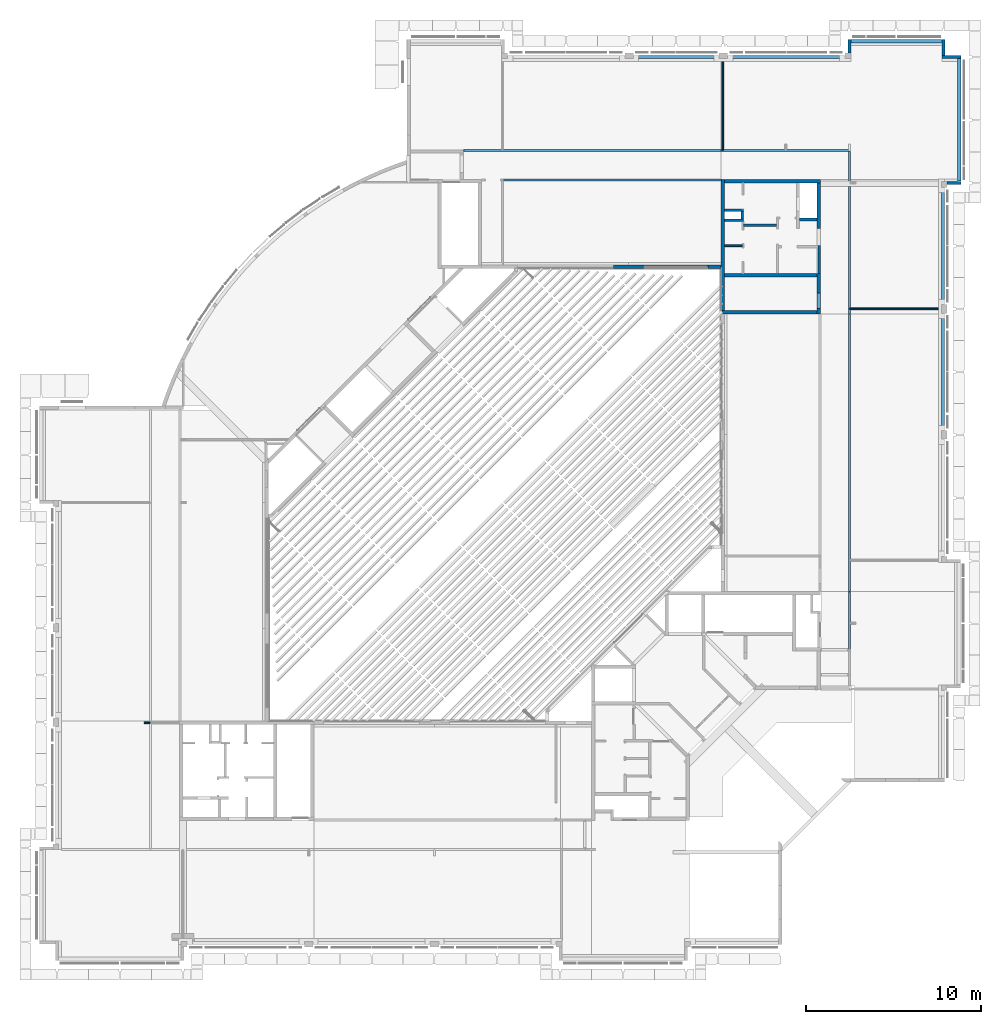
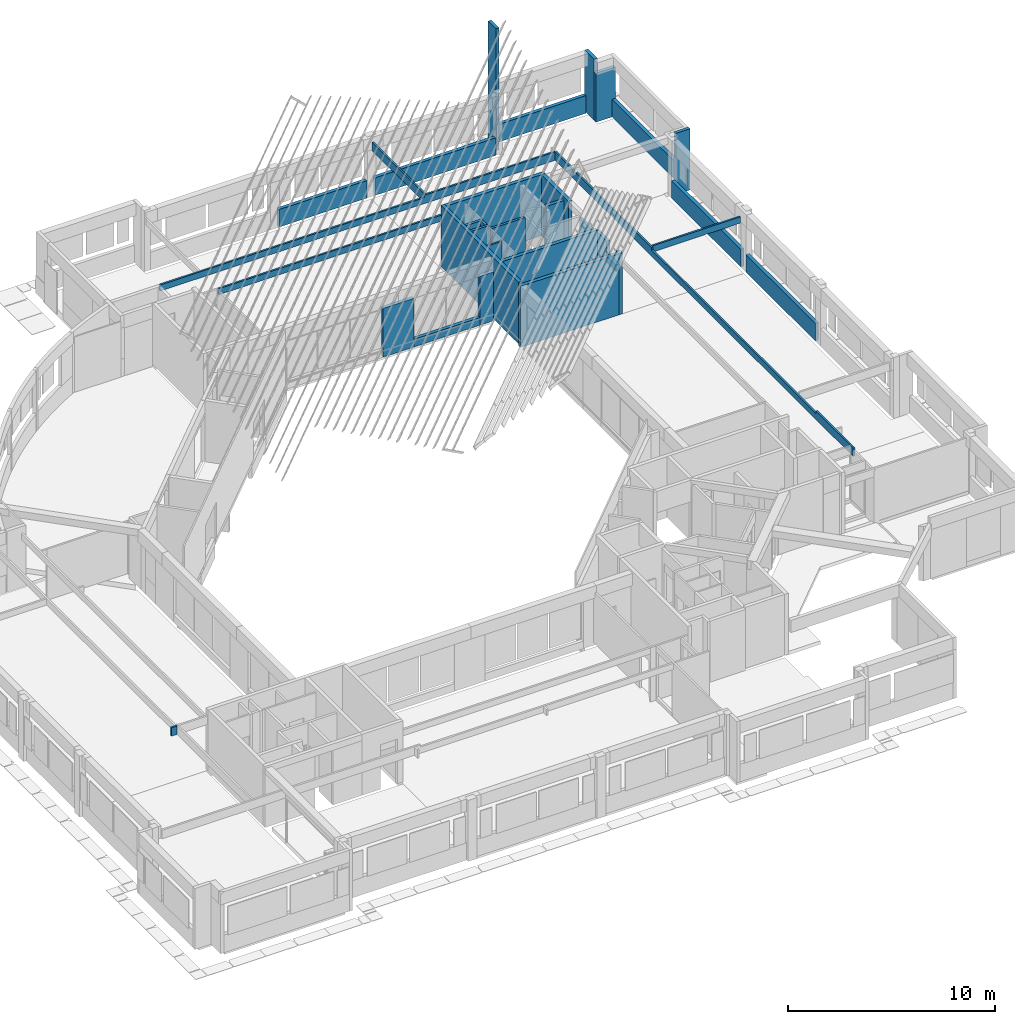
# One storey, part 30 of 37: 34 walls.
"""IFC4X3_ADD2 building model written with IfcOpenShell, lengths in millimetres."""

from ifc_helpers import new_model, si_unit, direction, frame, frame_2d, origin_with_axes, origin_2d_with_axis, place, context, subcontext, project, spatial, polyline, rectangle, outline, extrude, source, transform, mapped, material, type_object, type_shapes, element, save


model = new_model("IFC4X3_ADD2")

# Units and contexts
model_context = context("Model", 3, precision=1e-05, world=origin_with_axes(), true_north=direction((0.0, 1.0)))
body_context = subcontext(model_context, "Body", "Model", "MODEL_VIEW")
ifc_project = project(units=[si_unit("LENGTHUNIT", "METRE", prefix="MILLI"), si_unit("AREAUNIT", "SQUARE_METRE"), si_unit("VOLUMEUNIT", "CUBIC_METRE"), si_unit("PLANEANGLEUNIT", "RADIAN"), si_unit("TIMEUNIT", "SECOND"), si_unit("MASSUNIT", "GRAM")], contexts=[model_context])

# Site, building, storey
site_placement = place(None, origin_with_axes())
site = spatial("IfcSite", under=ifc_project, at=site_placement, Name="Site", CompositionType="ELEMENT")
building_placement = place(site_placement, origin_with_axes())
building = spatial("IfcBuilding", under=site, at=building_placement, Name="IFC Building Story")
storey_placement = place(building_placement, frame((0.0, 0.0, 3600.0), z_axis=(0.0, 0.0, 1.0), x_axis=(1.0, 0.0, 0.0)))
storey = spatial("IfcBuildingStorey", under=building, at=storey_placement, Name="010", Elevation=3600.0)

# Walls
ifc_material_1 = material(Name="BB_Beton_Bestaand")
wall_type_1 = type_object("IfcWallType", Name="BB_Beton_Bestaand 200", PredefinedType="NOTDEFINED", material=ifc_material_1)
wall_1_placement = place(storey_placement, origin_with_axes())
element("IfcWall", 1, at=wall_1_placement, inside=storey, type_object=wall_type_1, Name="Basic Wall:BB_XX_Wand uit beton, 200 mm", ObjectType="Basic Wall:BB_XX_Wand uit beton, 200 mm", PredefinedType="SOLIDWALL", context=body_context, shape_type="SweptSolid", body=[
    extrude(rectangle(XDim=5500.004065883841, YDim=200.0, at=origin_2d_with_axis()), frame((-9950.00203294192, 36100.0, -200.0), z_axis=(0.0, 0.0, 1.0), x_axis=(1.0, 0.0, 0.0)), (0.0, 0.0, 1.0), 3600.0),
])
wall_2_placement = place(storey_placement, origin_with_axes())
element("IfcWall", 2, at=wall_2_placement, inside=storey, type_object=wall_type_1, Name="Basic Wall:BB_XX_Wand uit beton, 200 mm", ObjectType="Basic Wall:BB_XX_Wand uit beton, 200 mm", PredefinedType="SOLIDWALL", context=body_context, shape_type="SweptSolid", body=[
    extrude(rectangle(XDim=7499.999999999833, YDim=199.9999999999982, at=frame_2d((0.0, 0.0), x_axis=(0.0, 1.0))), frame((-12600.0040658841, 39949.99999999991, -80.0), z_axis=(0.0, 0.0, 1.0), x_axis=(1.0, 0.0, 0.0)), (0.0, 0.0, 1.0), 3600.0),
])
wall_3_placement = place(storey_placement, origin_with_axes())
element("IfcWall", 3, at=wall_3_placement, inside=storey, type_object=wall_type_1, Name="Basic Wall:BB_XX_Wand uit beton, 200 mm", ObjectType="Basic Wall:BB_XX_Wand uit beton, 200 mm", PredefinedType="SOLIDWALL", context=body_context, shape_type="SweptSolid", body=[
    extrude(rectangle(XDim=5500.00406588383, YDim=200.0000000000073, at=origin_2d_with_axis()), frame((-9750.002032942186, 43600.0, -80.0), z_axis=(0.0, 0.0, 1.0), x_axis=(1.0, 0.0, 0.0)), (0.0, 0.0, 1.0), 3600.0),
])
wall_4_placement = place(storey_placement, origin_with_axes())
element("IfcWall", 4, at=wall_4_placement, inside=storey, type_object=wall_type_1, Name="Basic Wall:BB_XX_Wand uit beton, 200 mm", ObjectType="Basic Wall:BB_XX_Wand uit beton, 200 mm", PredefinedType="SOLIDWALL", context=body_context, shape_type="SweptSolid", body=[
    extrude(rectangle(XDim=2599.999999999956, YDim=200.0, at=frame_2d((0.0, 0.0), x_axis=(0.0, 1.0))), frame((-7100.0, 42200.00000000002, -80.0), z_axis=(0.0, 0.0, 1.0), x_axis=(1.0, 0.0, 0.0)), (0.0, 0.0, 1.0), 3600.0),
])
wall_5_placement = place(storey_placement, origin_with_axes())
element("IfcWall", 5, at=wall_5_placement, inside=storey, type_object=wall_type_1, Name="Basic Wall:BB_XX_Wand uit beton, 200 mm", ObjectType="Basic Wall:BB_XX_Wand uit beton, 200 mm", PredefinedType="SOLIDWALL", context=body_context, shape_type="SweptSolid", body=[
    extrude(rectangle(XDim=1089.999999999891, YDim=200.0, at=frame_2d((0.0, 0.0), x_axis=(0.0, 1.0))), frame((-7100.0, 37754.99999999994, -200.0), z_axis=(0.0, 0.0, 1.0), x_axis=(1.0, 0.0, 0.0)), (0.0, 0.0, 1.0), 3600.0),
])
wall_6_placement = place(storey_placement, origin_with_axes())
element("IfcWall", 6, at=wall_6_placement, inside=storey, type_object=wall_type_1, Name="Basic Wall:BB_XX_Wand uit beton, 200 mm", ObjectType="Basic Wall:BB_XX_Wand uit beton, 200 mm", PredefinedType="SOLIDWALL", context=body_context, shape_type="SweptSolid", body=[
    extrude(rectangle(XDim=5300.004065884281, YDim=200.0, at=origin_2d_with_axis()), frame((-9850.00203294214, 38200.0, -80.0), z_axis=(0.0, 0.0, 1.0), x_axis=(1.0, 0.0, 0.0)), (0.0, 0.0, 1.0), 3600.0),
])
wall_7_placement = place(storey_placement, origin_with_axes())
element("IfcWall", 7, at=wall_7_placement, inside=storey, type_object=wall_type_1, Name="Basic Wall:BB_XX_Wand uit beton, 200 mm", ObjectType="Basic Wall:BB_XX_Wand uit beton, 200 mm", PredefinedType="SOLIDWALL", context=body_context, shape_type="SweptSolid", body=[
    extrude(rectangle(XDim=299.9999999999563, YDim=200.0, at=frame_2d((0.0, 0.0), x_axis=(0.0, 1.0))), frame((-7100.0, 36149.99999999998, -200.0), z_axis=(0.0, 0.0, 1.0), x_axis=(1.0, 0.0, 0.0)), (0.0, 0.0, 1.0), 3600.0),
])
wall_type_2 = type_object("IfcWallType", Name="BB_Beton_Bestaand 190", PredefinedType="NOTDEFINED", material=ifc_material_1)
wall_8_placement = place(storey_placement, origin_with_axes())
element("IfcWall", 8, at=wall_8_placement, inside=storey, type_object=wall_type_2, Name="Basic Wall:BB_XX_Wand uit beton, 190 mm", ObjectType="Basic Wall:BB_XX_Wand uit beton, 190 mm", PredefinedType="SOLIDWALL", context=body_context, shape_type="SweptSolid", body=[
    extrude(rectangle(XDim=6709.999999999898, YDim=190.0, at=frame_2d((0.0, 0.0), x_axis=(0.0, 1.0))), frame((0.0, 32700.0, -200.0), z_axis=(0.0, 0.0, 1.0), x_axis=(1.0, 0.0, 0.0)), (0.0, 0.0, 1.0), 1040.0),
])
wall_9_placement = place(storey_placement, origin_with_axes())
element("IfcWall", 9, at=wall_9_placement, inside=storey, type_object=wall_type_2, Name="Basic Wall:BB_XX_Wand uit beton, 190 mm", ObjectType="Basic Wall:BB_XX_Wand uit beton, 190 mm", PredefinedType="SOLIDWALL", context=body_context, shape_type="SweptSolid", body=[
    extrude(rectangle(XDim=6689.999999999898, YDim=190.0, at=frame_2d((0.0, 0.0), x_axis=(0.0, 1.0))), frame((0.0, 39890.00000000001, -200.0), z_axis=(0.0, 0.0, 1.0), x_axis=(1.0, 0.0, 0.0)), (0.0, 0.0, 1.0), 1040.0),
])
wall_10_placement = place(storey_placement, origin_with_axes())
element("IfcWall", 10, at=wall_10_placement, inside=storey, type_object=wall_type_2, Name="Basic Wall:BB_XX_Wand uit beton, 190 mm", ObjectType="Basic Wall:BB_XX_Wand uit beton, 190 mm", PredefinedType="SOLIDWALL", context=body_context, shape_type="SweptSolid", body=[
    extrude(rectangle(XDim=7010.000000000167, YDim=190.0, at=frame_2d((0.0, 0.0), x_axis=(0.0, 1.0))), frame((935.0, 47099.99999999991, -200.0), z_axis=(0.0, 0.0, 1.0), x_axis=(1.0, 0.0, 0.0)), (0.0, 0.0, 1.0), 1040.0),
])
wall_11_placement = place(storey_placement, origin_with_axes())
element("IfcWall", 11, at=wall_11_placement, inside=storey, type_object=wall_type_2, Name="Basic Wall:BB_XX_Wand uit beton, 190 mm", ObjectType="Basic Wall:BB_XX_Wand uit beton, 190 mm", PredefinedType="SOLIDWALL", context=body_context, shape_type="SweptSolid", body=[
    extrude(rectangle(XDim=1089.99999999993, YDim=189.9999999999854, at=origin_2d_with_axis()), frame((484.999999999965, 50700.0, -200.0), z_axis=(0.0, 0.0, 1.0), x_axis=(1.0, 0.0, 0.0)), (0.0, 0.0, 1.0), 2880.0),
])
wall_12_placement = place(storey_placement, origin_with_axes())
element("IfcWall", 12, at=wall_12_placement, inside=storey, type_object=wall_type_2, Name="Basic Wall:BB_XX_Wand uit beton, 190 mm", ObjectType="Basic Wall:BB_XX_Wand uit beton, 190 mm", PredefinedType="SOLIDWALL", context=body_context, shape_type="SweptSolid", body=[
    extrude(rectangle(XDim=900.0000000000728, YDim=190.0, at=frame_2d((0.0, 0.0), x_axis=(0.0, 1.0))), frame((35.0, 51244.99999999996, -200.0), z_axis=(0.0, 0.0, 1.0), x_axis=(1.0, 0.0, 0.0)), (0.0, 0.0, 1.0), 3600.0),
])
wall_13_placement = place(storey_placement, origin_with_axes())
element("IfcWall", 13, at=wall_13_placement, inside=storey, type_object=wall_type_2, Name="Basic Wall:BB_XX_Wand uit beton, 190 mm", ObjectType="Basic Wall:BB_XX_Wand uit beton, 190 mm", PredefinedType="SOLIDWALL", context=body_context, shape_type="SweptSolid", body=[
    extrude(rectangle(XDim=5210.0, YDim=189.9999999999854, at=origin_2d_with_axis()), frame((-2700.0, 51600.0, -200.0), z_axis=(0.0, 0.0, 1.0), x_axis=(1.0, 0.0, 0.0)), (0.0, 0.0, 1.0), 1040.0),
])
wall_14_placement = place(storey_placement, origin_with_axes())
element("IfcWall", 14, at=wall_14_placement, inside=storey, type_object=wall_type_2, Name="Basic Wall:BB_XX_Wand uit beton, 190 mm", ObjectType="Basic Wall:BB_XX_Wand uit beton, 190 mm", PredefinedType="SOLIDWALL", context=body_context, shape_type="SweptSolid", body=[
    extrude(rectangle(XDim=6710.00000000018, YDim=189.9999999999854, at=origin_2d_with_axis()), frame((-9000.000000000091, 50700.0, -200.0), z_axis=(0.0, 0.0, 1.0), x_axis=(1.0, 0.0, 0.0)), (0.0, 0.0, 1.0), 1040.0),
])
wall_15_placement = place(storey_placement, origin_with_axes())
element("IfcWall", 15, at=wall_15_placement, inside=storey, type_object=wall_type_2, Name="Basic Wall:BB_XX_Wand uit beton, 190 mm", ObjectType="Basic Wall:BB_XX_Wand uit beton, 190 mm", PredefinedType="SOLIDWALL", context=body_context, shape_type="SweptSolid", body=[
    extrude(rectangle(XDim=4910.000000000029, YDim=189.9999999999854, at=origin_2d_with_axis()), frame((-15300.00000000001, 50700.0, -200.0), z_axis=(0.0, 0.0, 1.0), x_axis=(1.0, 0.0, 0.0)), (0.0, 0.0, 1.0), 1040.0),
])
wall_16_placement = place(storey_placement, origin_with_axes())
element("IfcWall", 16, at=wall_16_placement, inside=storey, type_object=wall_type_2, Name="Basic Wall:BB_XX_Wand uit beton, 190 mm", ObjectType="Basic Wall:BB_XX_Wand uit beton, 190 mm", PredefinedType="SOLIDWALL", context=body_context, shape_type="SweptSolid", body=[
    extrude(rectangle(XDim=1710.0, YDim=190.0, at=origin_2d_with_axis()), frame((-18000.0, 38699.9959341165, -200.0), z_axis=(0.0, 0.0, 1.0), x_axis=(1.0, 0.0, 0.0)), (0.0, 0.0, 1.0), 2880.0),
])
wall_17_placement = place(storey_placement, origin_with_axes())
element("IfcWall", 17, at=wall_17_placement, inside=storey, type_object=wall_type_2, Name="Basic Wall:BB_XX_Wand uit beton, 190 mm", ObjectType="Basic Wall:BB_XX_Wand uit beton, 190 mm", PredefinedType="SOLIDWALL", context=body_context, shape_type="SweptSolid", body=[
    extrude(rectangle(XDim=754.9959341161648, YDim=190.0, at=origin_2d_with_axis()), frame((-13077.50203294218, 38699.9959341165, -200.0), z_axis=(0.0, 0.0, 1.0), x_axis=(1.0, 0.0, 0.0)), (0.0, 0.0, 1.0), 2880.0),
])
wall_18_placement = place(storey_placement, origin_with_axes())
element("IfcWall", 18, at=wall_18_placement, inside=storey, type_object=wall_type_2, Name="Basic Wall:BB_XX_Wand uit beton, 190 mm", ObjectType="Basic Wall:BB_XX_Wand uit beton, 190 mm", PredefinedType="SOLIDWALL", context=body_context, shape_type="SweptSolid", body=[
    extrude(rectangle(XDim=3690.0, YDim=190.0, at=origin_2d_with_axis()), frame((-15300.0, 38699.9959341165, -200.0), z_axis=(0.0, 0.0, 1.0), x_axis=(1.0, 0.0, 0.0)), (0.0, 0.0, 1.0), 449.999999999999),
])
wall_type_3 = type_object("IfcWallType", Name="BB_Beton_Bestaand 170", PredefinedType="NOTDEFINED", material=ifc_material_1)
wall_19_placement = place(storey_placement, origin_with_axes())
element("IfcWall", 19, at=wall_19_placement, inside=storey, type_object=wall_type_3, Name="Basic Wall:BB_XX_Wand uit beton, 170 mm", ObjectType="Basic Wall:BB_XX_Wand uit beton, 170 mm", PredefinedType="SOLIDWALL", context=body_context, shape_type="SweptSolid", body=[
    extrude(rectangle(XDim=785.000000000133, YDim=169.9999999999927, at=origin_2d_with_axis()), frame((637.4999999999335, 43490.0, -200.0), z_axis=(0.0, 0.0, 1.0), x_axis=(1.0, 0.0, 0.0)), (0.0, 0.0, 1.0), 3600.0),
])
wall_20_placement = place(storey_placement, origin_with_axes())
element("IfcWall", 20, at=wall_20_placement, inside=storey, type_object=wall_type_3, Name="Basic Wall:BB_XX_Wand uit beton, 170 mm", ObjectType="Basic Wall:BB_XX_Wand uit beton, 170 mm", PredefinedType="SOLIDWALL", context=body_context, shape_type="SweptSolid", body=[
    extrude(rectangle(XDim=750.0000000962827, YDim=170.0, at=frame_2d((0.0, 0.0), x_axis=(0.0, 1.0))), frame((-5355.0, 51320.00000004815, -200.0), z_axis=(0.0, 0.0, 1.0), x_axis=(1.0, 0.0, 0.0)), (0.0, 0.0, 1.0), 7200.0),
])
ifc_material_2 = material(Name="BB_Metselwerk_Bestaand")
wall_type_4 = type_object("IfcWallType", Name="BB_Metselwerk_Bestaand 140", PredefinedType="NOTDEFINED", material=ifc_material_2)
wall_21_placement = place(storey_placement, origin_with_axes())
element("IfcWall", 21, at=wall_21_placement, inside=storey, type_object=wall_type_4, Name="Basic Wall:BB_XX_Wand uit metselwerk, 140 mm", ObjectType="Basic Wall:BB_XX_Wand uit metselwerk, 140 mm", PredefinedType="SOLIDWALL", context=body_context, shape_type="SweptSolid", body=[
    extrude(rectangle(XDim=1609.999999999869, YDim=140.0, at=frame_2d((0.0, 0.0), x_axis=(0.0, 1.0))), frame((-7070.0, 39104.99999999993, -80.0), z_axis=(0.0, 0.0, 1.0), x_axis=(1.0, 0.0, 0.0)), (0.0, 0.0, 1.0), 3220.0),
])
wall_22_placement = place(storey_placement, origin_with_axes())
element("IfcWall", 22, at=wall_22_placement, inside=storey, type_object=wall_type_4, Name="Basic Wall:BB_XX_Wand uit metselwerk, 140 mm", ObjectType="Basic Wall:BB_XX_Wand uit metselwerk, 140 mm", PredefinedType="SOLIDWALL", context=body_context, shape_type="SweptSolid", body=[
    extrude(rectangle(XDim=1870.004065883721, YDim=140.0, at=origin_2d_with_axis()), frame((-10475.00203294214, 41080.0, -80.0), z_axis=(0.0, 0.0, 1.0), x_axis=(1.0, 0.0, 0.0)), (0.0, 0.0, 1.0), 3400.0),
])
wall_23_placement = place(storey_placement, origin_with_axes())
element("IfcWall", 23, at=wall_23_placement, inside=storey, type_object=wall_type_4, Name="Basic Wall:BB_XX_Wand uit metselwerk, 140 mm", ObjectType="Basic Wall:BB_XX_Wand uit metselwerk, 140 mm", PredefinedType="SOLIDWALL", context=body_context, shape_type="SweptSolid", body=[
    extrude(rectangle(XDim=1090.000000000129, YDim=140.0, at=origin_2d_with_axis()), frame((-11955.00406588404, 41370.0, -80.0), z_axis=(0.0, 0.0, 1.0), x_axis=(1.0, 0.0, 0.0)), (0.0, 0.0, 1.0), 3400.0),
])
wall_24_placement = place(storey_placement, origin_with_axes())
element("IfcWall", 24, at=wall_24_placement, inside=storey, type_object=wall_type_4, Name="Basic Wall:BB_XX_Wand uit metselwerk, 140 mm", ObjectType="Basic Wall:BB_XX_Wand uit metselwerk, 140 mm", PredefinedType="SOLIDWALL", context=body_context, shape_type="SweptSolid", body=[
    extrude(rectangle(XDim=409.9999999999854, YDim=140.0, at=frame_2d((0.0, 0.0), x_axis=(0.0, 1.0))), frame((-11480.004065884, 41644.99999999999, -80.0), z_axis=(0.0, 0.0, 1.0), x_axis=(1.0, 0.0, 0.0)), (0.0, 0.0, 1.0), 3400.0),
])
wall_25_placement = place(storey_placement, origin_with_axes())
element("IfcWall", 25, at=wall_25_placement, inside=storey, type_object=wall_type_4, Name="Basic Wall:BB_XX_Wand uit metselwerk, 140 mm", ObjectType="Basic Wall:BB_XX_Wand uit metselwerk, 140 mm", PredefinedType="SOLIDWALL", context=body_context, shape_type="SweptSolid", body=[
    extrude(rectangle(XDim=1090.000000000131, YDim=140.0, at=origin_2d_with_axis()), frame((-11955.00406588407, 41920.0, -80.0), z_axis=(0.0, 0.0, 1.0), x_axis=(1.0, 0.0, 0.0)), (0.0, 0.0, 1.0), 3400.0),
])
wall_type_5 = type_object("IfcWallType", Name="BB_Metselwerk_Bestaand 190", PredefinedType="NOTDEFINED", material=ifc_material_2)
wall_26_placement = place(storey_placement, origin_with_axes())
element("IfcWall", 26, at=wall_26_placement, inside=storey, type_object=wall_type_5, Name="Basic Wall:BB_XX_Wand uit metselwerk, 190 mm", ObjectType="Basic Wall:BB_XX_Wand uit metselwerk, 190 mm", PredefinedType="SOLIDWALL", context=body_context, shape_type="SweptSolid", body=[
    extrude(rectangle(XDim=999.9999999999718, YDim=189.9999999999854, at=origin_2d_with_axis()), frame((-7700.000000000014, 41405.0, -80.0), z_axis=(0.0, 0.0, 1.0), x_axis=(1.0, 0.0, 0.0)), (0.0, 0.0, 1.0), 3400.0),
])
wall_type_6 = type_object("IfcWallType", Name="Basic Wall_BB_10.01.41#01_Gipskartonwand_MS100 _ 25.50.25_ 100 mm31", PredefinedType="NOTDEFINED")
shared_shape_1 = source(origin_with_axes(), body_context, "Body", "SweptSolid", [
    extrude(outline(polyline([(-2449.163956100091, -213.3333333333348), (-9836.668021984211, -213.3333333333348), (-9836.668021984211, 286.666666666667), (12285.83197808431, 286.666666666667), (12285.83197808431, -73.33333333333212), (-2449.163956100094, -73.33333333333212), (-2449.163956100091, -213.3333333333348)])), frame((9749.168021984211, 37.50000000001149, 286.666666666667), z_axis=(0.0, 1.0, 0.0), x_axis=(1.0, 0.0, 0.0)), (0.0, 0.0, 1.0), 12.49999999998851),
    extrude(outline(polyline([(-2453.330622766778, -213.3333333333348), (-9828.334688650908, -213.3333333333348), (-9828.334688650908, 286.666666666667), (12281.66531141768, 286.666666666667), (12281.66531141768, -73.33333333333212), (-2453.330622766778, -73.33333333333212), (-2453.330622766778, -213.3333333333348)])), frame((9753.334688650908, 25.0000000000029, 286.666666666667), z_axis=(0.0, 1.0, 0.0), x_axis=(1.0, 0.0, 0.0)), (0.0, 0.0, 1.0), 12.49999999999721),
    extrude(outline(polyline([(-2469.997289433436, -213.3333333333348), (-9795.001355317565, -213.3333333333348), (-9795.001355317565, 286.666666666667), (12264.998644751, 286.666666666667), (12264.998644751, -73.33333333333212), (-2469.997289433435, -73.33333333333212), (-2469.997289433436, -213.3333333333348)])), frame((9770.001355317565, -25.000000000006, 286.666666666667), z_axis=(0.0, 1.0, 0.0), x_axis=(1.0, 0.0, 0.0)), (0.0, 0.0, 1.0), 50.000000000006),
    extrude(outline(polyline([(-2474.163956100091, -213.3333333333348), (-9786.668021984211, -213.3333333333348), (-9786.668021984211, 286.666666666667), (12260.83197808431, 286.666666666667), (12260.83197808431, -73.33333333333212), (-2474.163956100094, -73.33333333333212), (-2474.163956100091, -213.3333333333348)])), frame((9774.168021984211, -37.49999999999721, 286.666666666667), z_axis=(0.0, 1.0, 0.0), x_axis=(1.0, 0.0, 0.0)), (0.0, 0.0, 1.0), 12.49999999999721),
    extrude(outline(polyline([(-2478.330622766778, -213.3333333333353), (-9778.334688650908, -213.3333333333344), (-9778.334688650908, 286.6666666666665), (12256.66531141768, 286.6666666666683), (12256.66531141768, -73.33333333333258), (-2478.330622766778, -73.33333333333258), (-2478.330622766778, -213.3333333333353)])), frame((9778.334688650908, -49.9999999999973, 286.6666666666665), z_axis=(0.0, 1.0, 0.0), x_axis=(1.0, 0.0, 0.0)), (0.0, 0.0, 1.0), 12.5000000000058),
])
type_shapes(wall_type_6, [shared_shape_1])
wall_27_placement = place(storey_placement, frame((-5400.0, 45350.0, 2640.0), z_axis=(0.0, 0.0, 1.0), x_axis=(-1.0, 0.0, 0.0)))
element("IfcWall", 27, at=wall_27_placement, inside=storey, type_object=wall_type_6, Name="Basic Wall:BB_10.01.41#01_Gipskartonwand_MS100 / 25.50.25, 100 mm", ObjectType="Basic Wall:BB_10.01.41#01_Gipskartonwand_MS100 / 25.50.25, 100 mm", PredefinedType="PARTITIONING", context=body_context, shape_type="MappedRepresentation", body=[
    mapped(shared_shape_1, transform((0.0, 0.0, 0.0))),
])
wall_type_7 = type_object("IfcWallType", Name="Basic Wall_BB_10.01.41#01_Gipskartonwand_MS100 _ 25.50.25_ 100 mm33", PredefinedType="NOTDEFINED")
shared_shape_2 = source(origin_with_axes(), body_context, "Body", "SweptSolid", [
    extrude(rectangle(XDim=5030.00000000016, YDim=12.49999999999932, at=origin_2d_with_axis()), frame((2515.0, 43.74999999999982, 0.0), z_axis=(0.0, 0.0, 1.0), x_axis=(1.0, 0.0, 0.0)), (0.0, 0.0, 1.0), 500.000000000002),
    extrude(rectangle(XDim=5030.00000000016, YDim=12.49999999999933, at=origin_2d_with_axis()), frame((2515.0, 31.25000000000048, 0.0), z_axis=(0.0, 0.0, 1.0), x_axis=(1.0, 0.0, 0.0)), (0.0, 0.0, 1.0), 500.000000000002),
    extrude(rectangle(XDim=5055.00000000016, YDim=50.0000000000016, at=origin_2d_with_axis()), frame((2502.50000000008, 0.0, 0.0), z_axis=(0.0, 0.0, 1.0), x_axis=(1.0, 0.0, 0.0)), (0.0, 0.0, 1.0), 500.000000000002),
    extrude(rectangle(XDim=5042.50000000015, YDim=12.49999999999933, at=origin_2d_with_axis()), frame((2508.750000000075, -31.25000000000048, 0.0), z_axis=(0.0, 0.0, 1.0), x_axis=(1.0, 0.0, 0.0)), (0.0, 0.0, 1.0), 500.000000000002),
    extrude(rectangle(XDim=5030.00000000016, YDim=12.49999999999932, at=origin_2d_with_axis()), frame((2515.0, -43.74999999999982, 0.0), z_axis=(0.0, 0.0, 1.0), x_axis=(1.0, 0.0, 0.0)), (0.0, 0.0, 1.0), 500.000000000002),
])
type_shapes(wall_type_7, [shared_shape_2])
wall_28_placement = place(storey_placement, frame((-12600.0, 45400.0, 2640.0), z_axis=(0.0, 0.0, 1.0), x_axis=(0.0, 1.0, 0.0)))
element("IfcWall", 28, at=wall_28_placement, inside=storey, type_object=wall_type_7, Name="Basic Wall:BB_10.01.41#01_Gipskartonwand_MS100 / 25.50.25, 100 mm", ObjectType="Basic Wall:BB_10.01.41#01_Gipskartonwand_MS100 / 25.50.25, 100 mm", PredefinedType="PARTITIONING", context=body_context, shape_type="MappedRepresentation", body=[
    mapped(shared_shape_2, transform((0.0, 0.0, 0.0))),
])
wall_type_8 = type_object("IfcWallType", Name="Basic Wall_BB_10.01.41#01_Gipskartonwand_MS100 _ 25.50.25_ 100 mm37", PredefinedType="NOTDEFINED")
shared_shape_3 = source(origin_with_axes(), body_context, "Body", "SweptSolid", [
    extrude(outline(polyline([(-14031.66666666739, -128.3333333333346), (-17631.66666666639, -128.3333333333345), (-17631.66666666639, 371.6666666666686), (11168.33333333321, 371.6666666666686), (11168.33333333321, -128.3333333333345), (9463.333333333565, -128.3333333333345), (9463.333333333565, 1.666666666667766), (9163.333333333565, 1.666666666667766), (9163.333333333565, -128.3333333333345), (1868.333333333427, -128.3333333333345), (1868.333333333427, 11.66666666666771), (-14031.66666666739, 11.66666666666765), (-14031.66666666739, -128.3333333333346)])), frame((17631.66666666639, 37.50000000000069, 371.6666666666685), z_axis=(0.0, 1.0, 0.0), x_axis=(1.0, 0.0, 0.0)), (0.0, 0.0, 1.0), 12.49999999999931),
    extrude(outline(polyline([(-17631.66666666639, -128.3333333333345), (-17631.66666666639, 371.6666666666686), (11168.33333333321, 371.6666666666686), (11168.33333333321, -128.3333333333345), (9463.333333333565, -128.3333333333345), (9463.333333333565, 1.666666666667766), (9163.333333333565, 1.666666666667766), (9163.333333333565, -128.3333333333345), (1868.333333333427, -128.3333333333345), (1868.333333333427, 11.66666666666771), (-14031.66666666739, 11.66666666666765), (-14031.66666666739, -128.3333333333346), (-17631.66666666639, -128.3333333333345)])), frame((17631.66666666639, 24.99999999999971, 371.6666666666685), z_axis=(0.0, 1.0, 0.0), x_axis=(1.0, 0.0, 0.0)), (0.0, 0.0, 1.0), 12.5000000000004),
    extrude(outline(polyline([(-17631.66666666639, -128.3333333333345), (-17631.66666666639, 371.6666666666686), (11168.33333333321, 371.6666666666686), (11168.33333333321, -128.3333333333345), (9463.333333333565, -128.3333333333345), (9463.333333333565, 1.666666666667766), (9163.333333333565, 1.666666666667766), (9163.333333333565, -128.3333333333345), (1868.333333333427, -128.3333333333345), (1868.333333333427, 11.66666666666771), (-14031.66666666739, 11.66666666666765), (-14031.66666666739, -128.3333333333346), (-17631.66666666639, -128.3333333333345)])), frame((17631.66666666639, -24.9999999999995, 371.6666666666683), z_axis=(0.0, 1.0, 0.0), x_axis=(1.0, 0.0, 0.0)), (0.0, 0.0, 1.0), 49.9999999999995),
    extrude(outline(polyline([(-17631.66666666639, -128.3333333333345), (-17631.66666666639, 371.6666666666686), (11168.33333333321, 371.6666666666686), (11168.33333333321, -128.3333333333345), (9463.333333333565, -128.3333333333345), (9463.333333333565, 1.666666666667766), (9163.333333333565, 1.666666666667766), (9163.333333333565, -128.3333333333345), (1868.333333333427, -128.3333333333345), (1868.333333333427, 11.66666666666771), (-14031.66666666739, 11.66666666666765), (-14031.66666666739, -128.3333333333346), (-17631.66666666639, -128.3333333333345)])), frame((17631.66666666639, -37.5000000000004, 371.6666666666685), z_axis=(0.0, 1.0, 0.0), x_axis=(1.0, 0.0, 0.0)), (0.0, 0.0, 1.0), 12.5000000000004),
    extrude(outline(polyline([(-17631.66666666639, -128.3333333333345), (-17631.66666666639, 371.6666666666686), (11168.33333333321, 371.6666666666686), (11168.33333333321, -128.3333333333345), (9463.333333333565, -128.3333333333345), (9463.333333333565, 1.666666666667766), (9163.333333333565, 1.666666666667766), (9163.333333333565, -128.3333333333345), (1868.333333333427, -128.3333333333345), (1868.333333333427, 11.66666666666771), (-14031.66666666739, 11.66666666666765), (-14031.66666666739, -128.3333333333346), (-17631.66666666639, -128.3333333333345)])), frame((17631.66666666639, -50.0, 371.6666666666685), z_axis=(0.0, 1.0, 0.0), x_axis=(1.0, 0.0, 0.0)), (0.0, 0.0, 1.0), 12.50000000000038),
])
type_shapes(wall_type_8, [shared_shape_3])
wall_29_placement = place(storey_placement, frame((-5350.0, 16500.0, 2640.0), z_axis=(0.0, 0.0, 1.0), x_axis=(0.0, 1.0, 0.0)))
element("IfcWall", 29, at=wall_29_placement, inside=storey, type_object=wall_type_8, Name="Basic Wall:BB_10.01.41#01_Gipskartonwand_MS100 / 25.50.25, 100 mm", ObjectType="Basic Wall:BB_10.01.41#01_Gipskartonwand_MS100 / 25.50.25, 100 mm", PredefinedType="PARTITIONING", context=body_context, shape_type="MappedRepresentation", body=[
    mapped(shared_shape_3, transform((0.0, 0.0, 0.0))),
])
wall_type_9 = type_object("IfcWallType", Name="Basic Wall_BB_10.01.41#01_Gipskartonwand_MS100 _ 25.50.25_ 100 mm47", PredefinedType="NOTDEFINED")
shared_shape_4 = source(origin_with_axes(), body_context, "Body", "SweptSolid", [
    extrude(rectangle(XDim=12449.99593411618, YDim=12.49999999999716, at=origin_2d_with_axis()), frame((6224.99796705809, 43.7499999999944, 0.0), z_axis=(0.0, 0.0, 1.0), x_axis=(1.0, 0.0, 0.0)), (0.0, 0.0, 1.0), 359.999999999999),
    extrude(rectangle(XDim=12449.99593411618, YDim=12.49999999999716, at=origin_2d_with_axis()), frame((6224.99796705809, 31.2499999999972, 0.0), z_axis=(0.0, 0.0, 1.0), x_axis=(1.0, 0.0, 0.0)), (0.0, 0.0, 1.0), 359.999999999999),
    extrude(rectangle(XDim=12449.99593411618, YDim=50.00000000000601, at=origin_2d_with_axis()), frame((6224.99796705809, 4.351186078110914e-12, 0.0), z_axis=(0.0, 0.0, 1.0), x_axis=(1.0, 0.0, 0.0)), (0.0, 0.0, 1.0), 359.999999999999),
    extrude(rectangle(XDim=12449.99593411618, YDim=12.49999999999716, at=origin_2d_with_axis()), frame((6224.99796705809, -31.2500000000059, 0.0), z_axis=(0.0, 0.0, 1.0), x_axis=(1.0, 0.0, 0.0)), (0.0, 0.0, 1.0), 359.999999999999),
    extrude(rectangle(XDim=12449.99593411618, YDim=12.50000000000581, at=origin_2d_with_axis()), frame((6224.99796705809, -43.75000000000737, 0.0), z_axis=(0.0, 0.0, 1.0), x_axis=(1.0, 0.0, 0.0)), (0.0, 0.0, 1.0), 359.999999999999),
])
type_shapes(wall_type_9, [shared_shape_4])
wall_30_placement = place(storey_placement, frame((-25150.0, 43665.0, 2640.0), z_axis=(0.0, 0.0, 1.0), x_axis=(1.0, 0.0, 0.0)))
element("IfcWall", 30, at=wall_30_placement, inside=storey, type_object=wall_type_9, Name="Basic Wall:BB_10.01.41#01_Gipskartonwand_MS100 / 25.50.25, 100 mm", ObjectType="Basic Wall:BB_10.01.41#01_Gipskartonwand_MS100 / 25.50.25, 100 mm", PredefinedType="PARTITIONING", context=body_context, shape_type="MappedRepresentation", body=[
    mapped(shared_shape_4, transform((0.0, 0.0, 0.0))),
])
wall_type_10 = type_object("IfcWallType", Name="Basic Wall_BB_10.01.41#01_Gipskartonwand_MS100 _ 25.50.25_ 100 mm61", PredefinedType="NOTDEFINED")
shared_shape_5 = source(origin_with_axes(), body_context, "Body", "SweptSolid", [
    extrude(rectangle(XDim=299.9999999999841, YDim=12.50000000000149, at=origin_2d_with_axis()), frame((150.0, 43.74999999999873, 0.0), z_axis=(0.0, 0.0, 1.0), x_axis=(1.0, 0.0, 0.0)), (0.0, 0.0, 1.0), 500.000000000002),
    extrude(rectangle(XDim=312.499999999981, YDim=12.49999999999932, at=origin_2d_with_axis()), frame((156.2500000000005, 31.25000000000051, 0.0), z_axis=(0.0, 0.0, 1.0), x_axis=(1.0, 0.0, 0.0)), (0.0, 0.0, 1.0), 500.000000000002),
    extrude(rectangle(XDim=324.999999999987, YDim=50.00000000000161, at=origin_2d_with_axis()), frame((162.5000000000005, 0.0, 0.0), z_axis=(0.0, 0.0, 1.0), x_axis=(1.0, 0.0, 0.0)), (0.0, 0.0, 1.0), 500.000000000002),
    extrude(rectangle(XDim=299.9999999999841, YDim=12.49999999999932, at=origin_2d_with_axis()), frame((150.0, -31.25000000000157, 0.0), z_axis=(0.0, 0.0, 1.0), x_axis=(1.0, 0.0, 0.0)), (0.0, 0.0, 1.0), 500.000000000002),
    extrude(rectangle(XDim=299.9999999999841, YDim=12.49999999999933, at=origin_2d_with_axis()), frame((150.0, -43.750000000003, 0.0), z_axis=(0.0, 0.0, 1.0), x_axis=(1.0, 0.0, 0.0)), (0.0, 0.0, 1.0), 500.000000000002),
])
type_shapes(wall_type_10, [shared_shape_5])
wall_31_placement = place(storey_placement, frame((-45700.0, 12600.0, 2640.0), z_axis=(0.0, 0.0, 1.0), x_axis=(1.0, 0.0, 0.0)))
element("IfcWall", 31, at=wall_31_placement, inside=storey, type_object=wall_type_10, Name="Basic Wall:BB_10.01.41#01_Gipskartonwand_MS100 / 25.50.25, 100 mm", ObjectType="Basic Wall:BB_10.01.41#01_Gipskartonwand_MS100 / 25.50.25, 100 mm", PredefinedType="PARTITIONING", context=body_context, shape_type="MappedRepresentation", body=[
    mapped(shared_shape_5, transform((0.0, 0.0, 0.0))),
])
wall_type_11 = type_object("IfcWallType", Name="Basic Wall_BB_10.01.41#03_Gipskartonwand_43dB_MS100 _ 25.50.25_ 100 mm57", PredefinedType="NOTDEFINED")
shared_shape_6 = source(origin_with_axes(), body_context, "Body", "SweptSolid", [
    extrude(rectangle(XDim=5029.9999999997, YDim=12.50000000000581, at=origin_2d_with_axis()), frame((2515.0, 43.74999999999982, 0.0), z_axis=(0.0, 0.0, 1.0), x_axis=(1.0, 0.0, 0.0)), (0.0, 0.0, 1.0), 369.999999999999),
    extrude(rectangle(XDim=5029.9999999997, YDim=12.50000000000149, at=origin_2d_with_axis()), frame((2515.0, 31.25000000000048, 0.0), z_axis=(0.0, 0.0, 1.0), x_axis=(1.0, 0.0, 0.0)), (0.0, 0.0, 1.0), 369.999999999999),
    extrude(rectangle(XDim=5054.9999999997, YDim=49.9999999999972, at=origin_2d_with_axis()), frame((2502.49999999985, 0.0, 0.0), z_axis=(0.0, 0.0, 1.0), x_axis=(1.0, 0.0, 0.0)), (0.0, 0.0, 1.0), 369.999999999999),
    extrude(rectangle(XDim=5042.4999999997, YDim=12.50000000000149, at=origin_2d_with_axis()), frame((2508.74999999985, -31.24999999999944, 0.0), z_axis=(0.0, 0.0, 1.0), x_axis=(1.0, 0.0, 0.0)), (0.0, 0.0, 1.0), 369.999999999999),
    extrude(rectangle(XDim=5029.9999999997, YDim=12.49999999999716, at=origin_2d_with_axis()), frame((2515.0, -43.74999999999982, 0.0), z_axis=(0.0, 0.0, 1.0), x_axis=(1.0, 0.0, 0.0)), (0.0, 0.0, 1.0), 369.999999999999),
])
type_shapes(wall_type_11, [shared_shape_6])
wall_32_placement = place(storey_placement, frame((-5300.0, 36300.0, 2640.0), z_axis=(0.0, 0.0, 1.0), x_axis=(1.0, 0.0, 0.0)))
element("IfcWall", 32, at=wall_32_placement, inside=storey, type_object=wall_type_11, Name="Basic Wall:BB_10.01.41#03_Gipskartonwand_43dB_MS100 / 25.50.25, 100 mm", ObjectType="Basic Wall:BB_10.01.41#03_Gipskartonwand_43dB_MS100 / 25.50.25, 100 mm", PredefinedType="PARTITIONING", context=body_context, shape_type="MappedRepresentation", body=[
    mapped(shared_shape_6, transform((0.0, 0.0, 0.0))),
])
wall_type_12 = type_object("IfcWallType", Name="BB_Metselwerk_Bestaand 200", PredefinedType="NOTDEFINED", material=ifc_material_2)
wall_33_placement = place(storey_placement, origin_with_axes())
element("IfcWall", 33, at=wall_33_placement, inside=storey, type_object=wall_type_12, Name="Basic Wall:BB_XX_Wand uit metselwerk, 200 mm", ObjectType="Basic Wall:BB_XX_Wand uit metselwerk, 200 mm", PredefinedType="SOLIDWALL", context=body_context, shape_type="SweptSolid", body=[
    extrude(rectangle(XDim=910.0000000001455, YDim=200.0, at=frame_2d((0.0, 0.0), x_axis=(0.0, 1.0))), frame((-7100.0, 36754.99999999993, 2160.0), z_axis=(0.0, 0.0, 1.0), x_axis=(1.0, 0.0, 0.0)), (0.0, 0.0, 1.0), 389.999999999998),
])
wall_type_13 = type_object("IfcWallType", Name="BB_Metselwerk_Bestaand 100", PredefinedType="NOTDEFINED", material=ifc_material_2)
wall_34_placement = place(storey_placement, origin_with_axes())
element("IfcWall", 34, at=wall_34_placement, inside=storey, type_object=wall_type_13, Name="Basic Wall:BB_XX_Wand uit metselwerk, 100 mm", ObjectType="Basic Wall:BB_XX_Wand uit metselwerk, 100 mm", PredefinedType="SOLIDWALL", context=body_context, shape_type="SweptSolid", body=[
    extrude(rectangle(XDim=1000.000000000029, YDim=100.0, at=origin_2d_with_axis()), frame((-12000.00406588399, 39895.0, -80.0), z_axis=(0.0, 0.0, 1.0), x_axis=(1.0, 0.0, 0.0)), (0.0, 0.0, 1.0), 3400.0),
])

save(model, "model.ifc")
